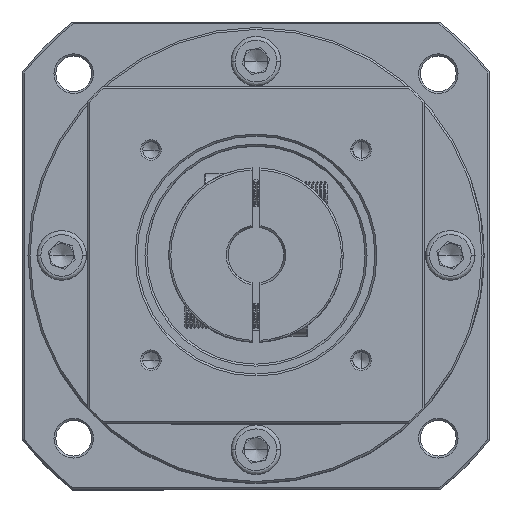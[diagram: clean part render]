
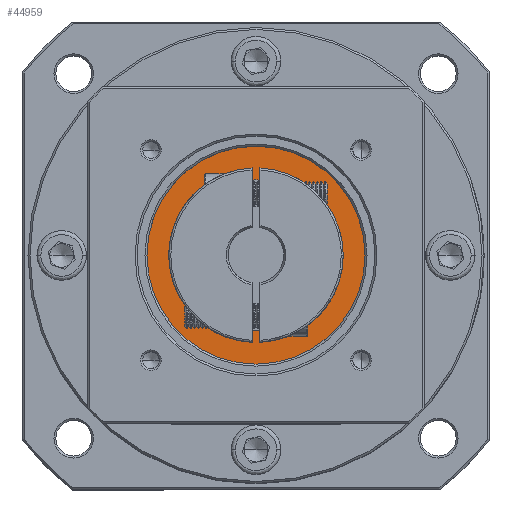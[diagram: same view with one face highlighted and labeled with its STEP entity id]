
A CAD part, top view. The second image highlights one B-rep face of the part: STEP entity #44959.
In plain terms, the highlighted planar face has unit normal (0, 0, 1).
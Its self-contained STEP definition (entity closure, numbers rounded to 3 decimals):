
#2494 = AXIS2_PLACEMENT_3D ( 'NONE', #61948, #9325, #70776 ) ;
#3104 = EDGE_LOOP ( 'NONE', ( #11306, #79382 ) ) ;
#3316 = FACE_BOUND ( 'NONE', #3104, .T. ) ;
#4257 = ORIENTED_EDGE ( 'NONE', *, *, #32380, .T. ) ;
#4414 = AXIS2_PLACEMENT_3D ( 'NONE', #78623, #26002, #87477 ) ;
#5430 = VERTEX_POINT ( 'NONE', #101581 ) ;
#6237 = CIRCLE ( 'NONE', #80709, 27.5 ) ;
#7017 = DIRECTION ( 'NONE',  ( -1., 0., 0. ) ) ;
#9325 = DIRECTION ( 'NONE',  ( 0., 0., 1. ) ) ;
#9908 = EDGE_CURVE ( 'NONE', #5430, #63200, #82090, .T. ) ;
#11306 = ORIENTED_EDGE ( 'NONE', *, *, #72854, .T. ) ;
#26002 = DIRECTION ( 'NONE',  ( 0., 0., -1. ) ) ;
#32380 = EDGE_CURVE ( 'NONE', #63200, #5430, #6237, .T. ) ;
#36378 = PLANE ( 'NONE',  #40273 ) ;
#40273 = AXIS2_PLACEMENT_3D ( 'NONE', #45652, #107107, #54468 ) ;
#41231 = EDGE_CURVE ( 'NONE', #95494, #45568, #61911, .T. ) ;
#44959 = ADVANCED_FACE ( 'NONE', ( #49938, #3316 ), #36378, .T. ) ;
#45568 = VERTEX_POINT ( 'NONE', #56233 ) ;
#45652 = CARTESIAN_POINT ( 'NONE',  ( -94.928, 38.218, 38.446 ) ) ;
#47206 = DIRECTION ( 'NONE',  ( 0., 0., -1. ) ) ;
#49270 = ORIENTED_EDGE ( 'NONE', *, *, #9908, .T. ) ;
#49356 = CIRCLE ( 'NONE', #4414, 19. ) ;
#49938 = FACE_OUTER_BOUND ( 'NONE', #57875, .T. ) ;
#54468 = DIRECTION ( 'NONE',  ( 1., 0., 0. ) ) ;
#56233 = CARTESIAN_POINT ( 'NONE',  ( -113.928, 38.218, 38.446 ) ) ;
#57875 = EDGE_LOOP ( 'NONE', ( #4257, #49270 ) ) ;
#59632 = DIRECTION ( 'NONE',  ( 0., 0., 1. ) ) ;
#61911 = CIRCLE ( 'NONE', #103874, 19. ) ;
#61948 = CARTESIAN_POINT ( 'NONE',  ( -94.928, 38.218, 38.446 ) ) ;
#63200 = VERTEX_POINT ( 'NONE', #112333 ) ;
#70776 = DIRECTION ( 'NONE',  ( -1., 0., 0. ) ) ;
#72091 = CARTESIAN_POINT ( 'NONE',  ( -75.928, 38.218, 38.446 ) ) ;
#72854 = EDGE_CURVE ( 'NONE', #45568, #95494, #49356, .T. ) ;
#78623 = CARTESIAN_POINT ( 'NONE',  ( -94.928, 38.218, 38.446 ) ) ;
#79382 = ORIENTED_EDGE ( 'NONE', *, *, #41231, .T. ) ;
#80709 = AXIS2_PLACEMENT_3D ( 'NONE', #112208, #59632, #7017 ) ;
#82090 = CIRCLE ( 'NONE', #2494, 27.5 ) ;
#87477 = DIRECTION ( 'NONE',  ( -1., 0., 0. ) ) ;
#95494 = VERTEX_POINT ( 'NONE', #72091 ) ;
#99824 = CARTESIAN_POINT ( 'NONE',  ( -94.928, 38.218, 38.446 ) ) ;
#101581 = CARTESIAN_POINT ( 'NONE',  ( -67.428, 38.218, 38.446 ) ) ;
#103874 = AXIS2_PLACEMENT_3D ( 'NONE', #99824, #47206, #108647 ) ;
#107107 = DIRECTION ( 'NONE',  ( 0., 0., 1. ) ) ;
#108647 = DIRECTION ( 'NONE',  ( -1., 0., 0. ) ) ;
#112208 = CARTESIAN_POINT ( 'NONE',  ( -94.928, 38.218, 38.446 ) ) ;
#112333 = CARTESIAN_POINT ( 'NONE',  ( -122.428, 38.218, 38.446 ) ) ;
